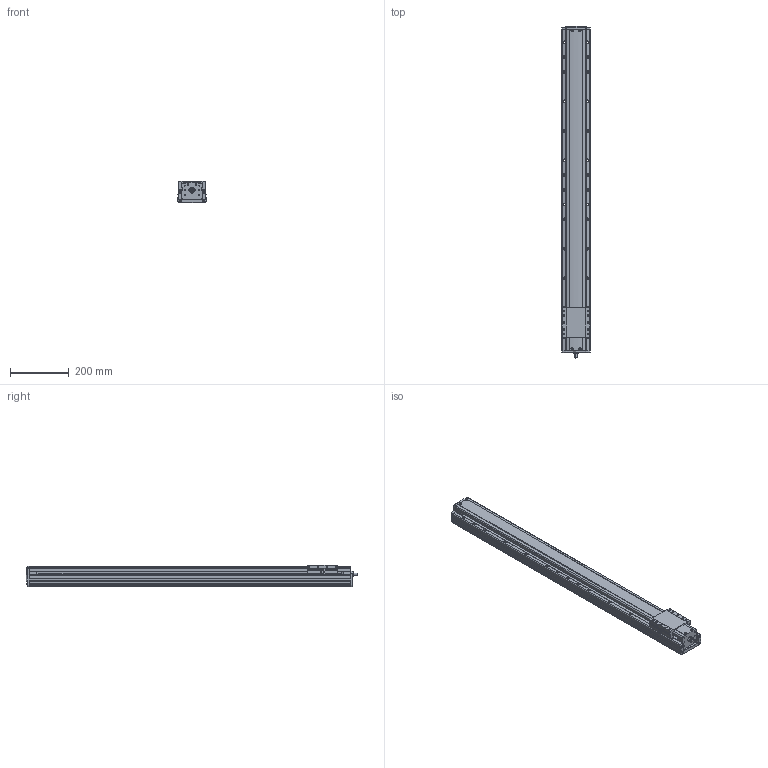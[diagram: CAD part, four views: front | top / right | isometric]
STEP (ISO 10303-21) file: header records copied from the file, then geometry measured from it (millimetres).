
FILE_DESCRIPTION(('STEP AP214'),'1');
FILE_NAME('Z:/Web/3D/PSA95/STP/PSA95-900 (3D)/PSA95ㅁㅁ-900.stp','2014-07-03T00:48:41',(' '),(' '),'Spatial InterOp 3D',' ',' ');
FILE_SCHEMA(('automotive_design'));
Length unit declared in the file: millimetre
Products named in the file (18): BASE; RRCV; 스크루 : Round - M4.0 x 10.0; 너트 : Square - M10.0 x 220.7419; RR1500; FRCV-090; 스크루 : Round - M4.0 x 6.0; SLBL-PA90
Bounding box: 95 x 1126 x 74 mm (x, y, z)
Volume: 5896734.7 mm3; surface area: 571537.9 mm2
Topology: 18 solids, 18 shells, 1899 faces, 5142 edges, 3270 vertices
Faces by surface type: plane 1019, cylinder 615, cone 197, sphere 30, bspline 24, torus 14
Entity records: 76975 total; most frequent: CARTESIAN_POINT 13492, DIRECTION 10030, ORIENTED_EDGE 10004, EDGE_CURVE 5002, LINE 3386, VECTOR 3386, AXIS2_PLACEMENT_3D 3322, VERTEX_POINT 3270
